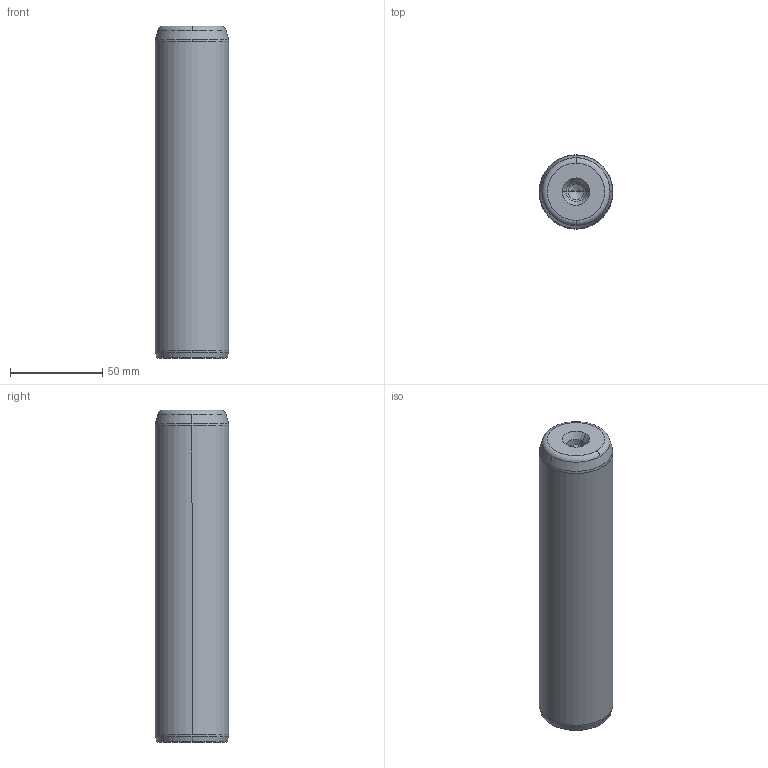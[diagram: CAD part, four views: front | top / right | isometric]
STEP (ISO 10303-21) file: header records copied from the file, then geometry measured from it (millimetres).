
FILE_DESCRIPTION((''),'2;1');
FILE_NAME('P10_040_180.stp','2008-12-23T15:23:49',(''),(''),'Mechanical Desktop 2009','Mechanical Desktop 2009',', , ');
FILE_SCHEMA(('CONFIG_CONTROL_DESIGN'));
Length unit declared in the file: millimetre
Products named in the file (5): Product; ProductAA; blmdl1; ProductA; blmdl1A
Assembly tree (2 placements, depth 3):
  Product
    ProductAA
      blmdl1
  ProductA
  blmdl1A
Bounding box: 40 x 40 x 180 mm (x, y, z)
Volume: 222690.6 mm3; surface area: 25463.2 mm2
Topology: 1 solids, 1 shells, 26 faces, 66 edges, 41 vertices
Faces by surface type: cone 10, torus 8, cylinder 6, plane 2
Entity records: 1012 total; most frequent: DIRECTION 170, CARTESIAN_POINT 134, ORIENTED_EDGE 128, AXIS2_PLACEMENT_3D 77, EDGE_CURVE 64, CIRCLE 48, VERTEX_POINT 41, EDGE_LOOP 27
